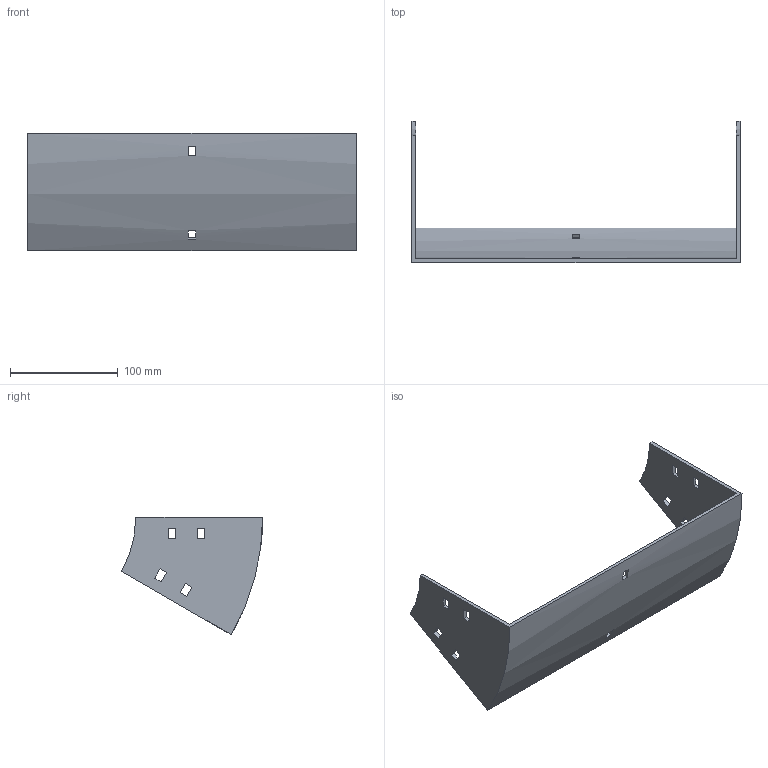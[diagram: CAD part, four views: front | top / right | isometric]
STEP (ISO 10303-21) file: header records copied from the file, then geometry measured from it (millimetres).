
FILE_DESCRIPTION (( 'STEP AP214' ), '1' );
FILE_NAME ('32B1J300.step', '2025-02-21T09:43:01', ( '' ), ( '' ), 'SwSTEP 2.0', 'SolidWorks 2023', '' );
FILE_SCHEMA (( 'AUTOMOTIVE_DESIGN' ));
Length unit declared in the file: millimetre
Products named in the file (1): 32B1J300
Bounding box: 304 x 130.9 x 108.75 mm (x, y, z)
Volume: 183425.2 mm3; surface area: 110081 mm2
Topology: 1 solids, 1 shells, 50 faces, 144 edges, 96 vertices
Faces by surface type: plane 46, cylinder 4
Entity records: 1687 total; most frequent: CARTESIAN_POINT 291, ORIENTED_EDGE 288, DIRECTION 262, EDGE_CURVE 144, LINE 128, VECTOR 128, VERTEX_POINT 96, EDGE_LOOP 70
